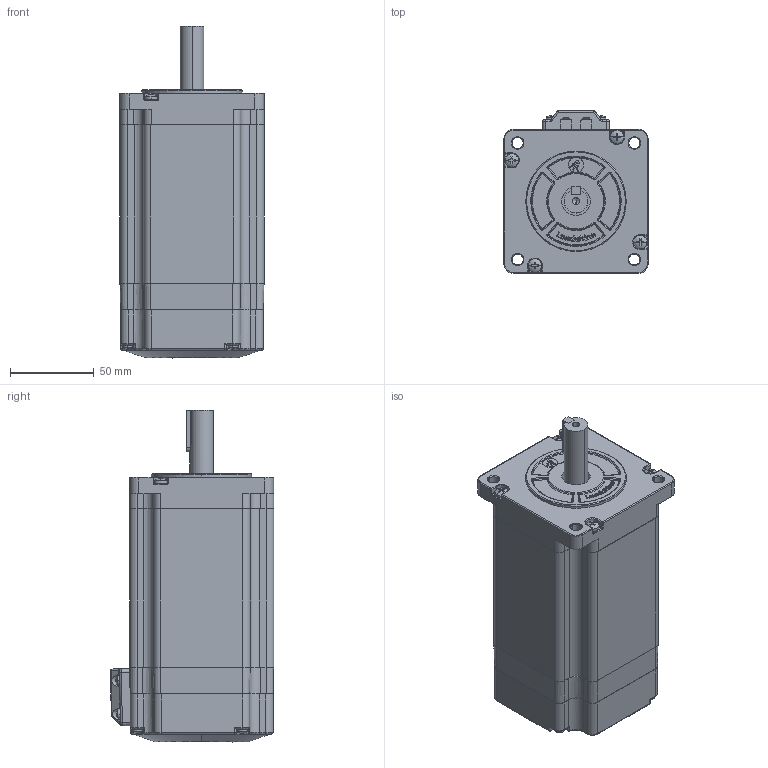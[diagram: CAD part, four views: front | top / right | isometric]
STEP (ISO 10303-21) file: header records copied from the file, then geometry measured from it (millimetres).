
FILE_DESCRIPTION (( 'STEP AP203' ), '1' );
FILE_NAME ('86CME120.STEP', '2018-06-26T01:23:53', ( 'Microsoft' ), ( 'China' ), 'SwSTEP 2.0', 'SolidWorks 2011', '' );
FILE_SCHEMA (( 'CONFIG_CONTROL_DESIGN' ));
Products named in the file (11): 86CME120; 瑩种86萇儂-3_Default; 蛌粣86萇儂-3_Default; cross recessed pan head screws gb_GB_CROSS_SCREWS_TYPE1 M4X6-6  H type-N-3_Default; cross recessed pan head screws gb_GB_CROSS_SCREWS_TYPE1 M3X6-6  H type-N-3_Default; 前端盖开模2015-04-02带（LOGO无字版放槽里）-3_Default; 后端盖（新PCB板常规出线）-3_Default; 电机压线块（开环闭口）常（后面出电源线）新设计参考创谊-3_Default; 编码器罩密封垫（常）修模（加小孔定位）-3_Default; 编码器罩多压面(常）非防水（加高1.5mm）修模带LOGO1（开口版）（加柱子）-3_Default; 隅赽86HBM80C-1000-3_Default
Assembly tree (20 placements, depth 2):
  86CME120
    cross recessed pan head screws gb_GB_CROSS_SCREWS_TYPE1 M3X6-6  H type-N-3_Default  x8
    cross recessed pan head screws gb_GB_CROSS_SCREWS_TYPE1 M4X6-6  H type-N-3_Default  x4
    前端盖开模2015-04-02带（LOGO无字版放槽里）-3_Default
    后端盖（新PCB板常规出线）-3_Default
    电机压线块（开环闭口）常（后面出电源线）新设计参考创谊-3_Default
    编码器罩密封垫（常）修模（加小孔定位）-3_Default
    瑩种86萇儂-3_Default
    编码器罩多压面(常）非防水（加高1.5mm）修模带LOGO1（开口版）（加柱子）-3_Default
    蛌粣86萇儂-3_Default
    隅赽86HBM80C-1000-3_Default
Bounding box: 86 x 97.46 x 198.2 mm (x, y, z)
Volume: 674519.5 mm3; surface area: 172315.1 mm2
Topology: 30 solids, 30 shells, 1709 faces, 4511 edges, 2890 vertices
Faces by surface type: plane 720, cylinder 629, bspline 320, cone 40
Entity records: 56903 total; most frequent: CARTESIAN_POINT 20654, ORIENTED_EDGE 7646, DIRECTION 6757, EDGE_CURVE 3823, VERTEX_POINT 2464, AXIS2_PLACEMENT_3D 2356, VECTOR 2045, LINE 2045
